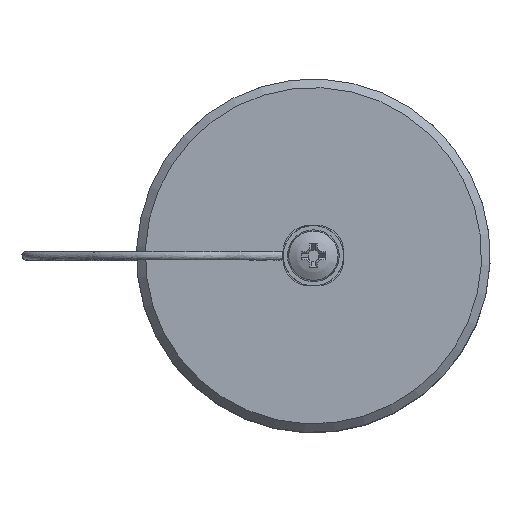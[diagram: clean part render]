
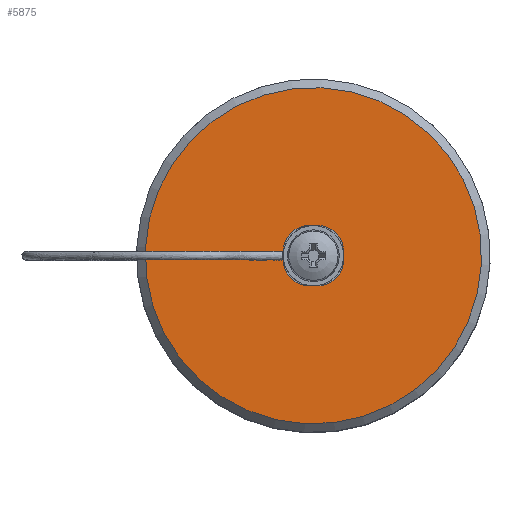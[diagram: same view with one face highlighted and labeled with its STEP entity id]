
A CAD part, top view. The second image highlights one B-rep face of the part: STEP entity #5875.
In plain terms, the highlighted planar face has unit normal (0, 0, 1).
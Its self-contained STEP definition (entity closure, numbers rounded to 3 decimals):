
#5809=CARTESIAN_POINT('',(-1.175,-0.361,36.));
#5810=VERTEX_POINT('',#5809);
#5811=CARTESIAN_POINT('',(0.,0.,36.));
#5812=DIRECTION('',(0.,0.,-1.0));
#5813=DIRECTION('',(-0.956,-0.293,0.));
#5814=AXIS2_PLACEMENT_3D('',#5811,#5812,#5813);
#5815=CIRCLE('',#5814,1.23);
#5816=EDGE_CURVE('',#5810,#5810,#5815,.T.);
#5840=CARTESIAN_POINT('',(18.641,5.723,36.));
#5841=VERTEX_POINT('',#5840);
#5842=CARTESIAN_POINT('',(0.,0.,36.));
#5843=DIRECTION('',(0.,0.,-1.0));
#5844=DIRECTION('',(-0.956,-0.293,0.));
#5845=AXIS2_PLACEMENT_3D('',#5842,#5843,#5844);
#5846=CIRCLE('',#5845,19.5);
#5847=EDGE_CURVE('',#5841,#5841,#5846,.T.);
#5864=CARTESIAN_POINT('',(0.,0.,36.));
#5865=DIRECTION('',(0.0,0.0,1.0));
#5866=DIRECTION('',(-0.956,-0.293,0.0));
#5867=AXIS2_PLACEMENT_3D('',#5864,#5865,#5866);
#5868=PLANE('',#5867);
#5869=ORIENTED_EDGE('',*,*,#5847,.F.);
#5870=EDGE_LOOP('',(#5869));
#5871=FACE_OUTER_BOUND('',#5870,.T.);
#5872=ORIENTED_EDGE('',*,*,#5816,.T.);
#5873=EDGE_LOOP('',(#5872));
#5874=FACE_BOUND('',#5873,.T.);
#5875=ADVANCED_FACE('',(#5871,#5874),#5868,.T.);
